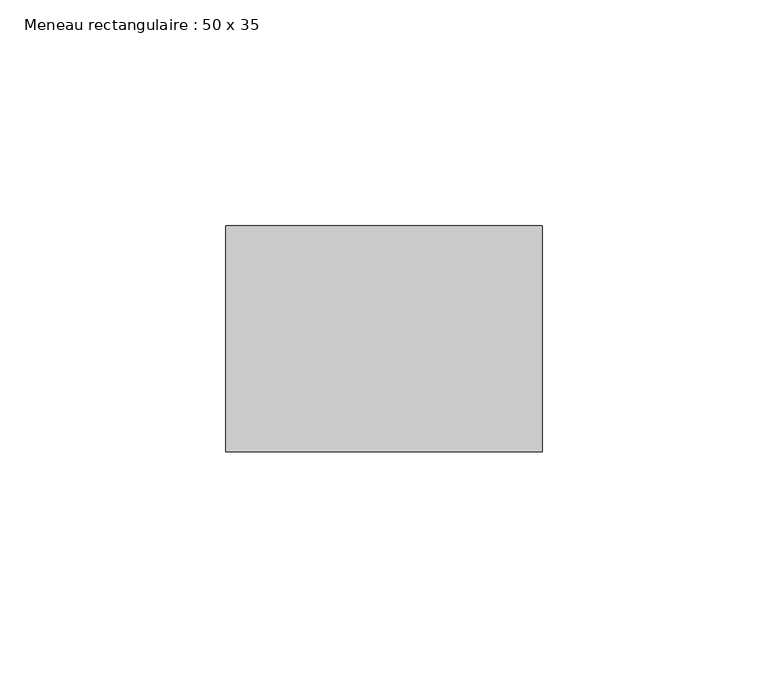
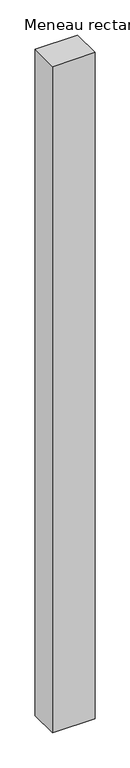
"""IFC4 building model written with IfcOpenShell, lengths in millimetres: member geometry, Meneau rectangulaire : 50 x 35."""

from ifc_helpers import new_model, si_unit, frame, origin, place, context, project, spatial, polyline, outline, extrude, source, transform, mapped, element, save


def meneau_rectangulaire_50_x_35_3739ceff(model_context):
    return source(origin(), model_context, "Body", "SweptSolid", [
        extrude(outline(polyline([(0.0, 0.0), (0.0, -50.0), (-70.0, -50.0), (-70.0, 0.0), (0.0, 0.0)])), frame((0.0, 0.0, -1161.125742), z_axis=(0.0, 0.0, 1.0), x_axis=(1.0, 0.0, 0.0)), (0.0, 0.0, 1.0), 1161.125742),
    ])


if __name__ == "__main__":
    model = new_model("IFC4")
    model_context = context("Model", 3, world=origin())
    ifc_project = project(units=[si_unit("LENGTHUNIT", "METRE", prefix="MILLI")], contexts=[model_context])
    site = spatial("IfcSite", under=ifc_project)
    building = spatial("IfcBuilding", under=site)
    placement = place(None, origin())
    meneau_rectangulaire_50_x_35_shape = meneau_rectangulaire_50_x_35_3739ceff(model_context)
    element("IfcMember", 1, ObjectType="Meneau rectangulaire : 50 x 35", at=placement, inside=building, context=model_context, shape_type="MappedRepresentation", body=[
        mapped(meneau_rectangulaire_50_x_35_shape, transform((0.0, 0.0, 0.0), x_axis=(1.0, 0.0, 0.0), y_axis=(0.0, 1.0, 0.0), z_axis=(0.0, 0.0, 1.0))),
    ])
    save(model, "model.ifc")
